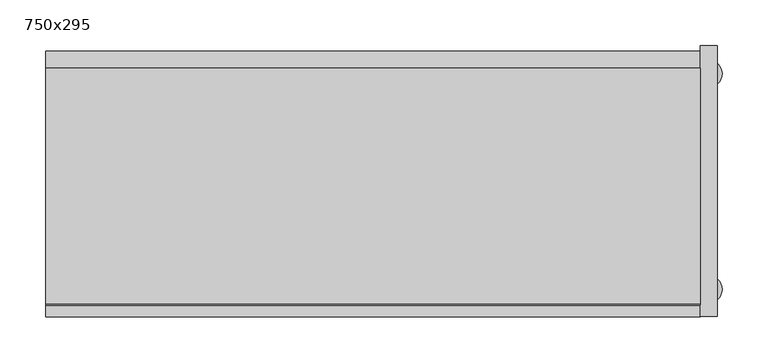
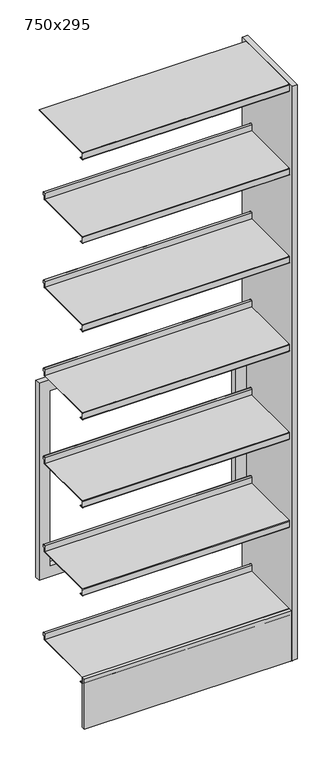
"""IFC4 building model written with IfcOpenShell, lengths in millimetres: furniture geometry, BK Library - Rondus EF - 2100 : 750x295."""

from ifc_helpers import new_model, si_unit, point, frame, frame_2d, origin, origin_with_axes, place, context, project, spatial, polyline, circle_curve, trimmed, segment, composite_curve, outline, extrude, source, transform, mapped, element, save


def furniture_750x295_7441573b(model_context):
    return source(origin(), model_context, "Body", "SweptSolid", [
        extrude(outline(polyline([(1106.1999512, -356.0), (391.1999512, -356.0), (391.1999512, 356.0), (1106.1999512, 356.0), (1106.1999512, -356.0)]), holes=[polyline([(1066.1999514, -317.5), (1066.1999514, 317.5), (431.1999514, 317.5), (431.1999514, -317.5), (1066.1999514, -317.5)])]), frame((0.0, 123.0, 0.0), z_axis=(0.0, 1.0, 0.0), x_axis=(0.0, 0.0, 1.0)), (0.0, 0.0, 1.0), 19.0),
        extrude(outline(polyline([(356.0, -135.2476624), (356.0, -147.5), (-356.0, -147.5), (-356.0, -135.2476624), (356.0, -135.2476624)])), frame((0.0, 0.0, 13.6999998), z_axis=(0.0, 0.0, 1.0), x_axis=(1.0, 0.0, 0.0)), (0.0, 0.0, 1.0), 181.4999514),
        extrude(outline(composite_curve([segment(polyline([(123.0, 2100.0), (123.0, 2098.0), (-133.75, 2098.0), (-133.75, 2076.5), (-121.75, 2076.5), (-121.75, 2075.0), (-133.75, 2075.0)]), True, "CONTINUOUS"), segment(trimmed(circle_curve(frame_2d((-133.75, 2076.5)), 1.5), [point((-133.75, 2075.0))], [point((-135.25, 2076.5))], False, "CARTESIAN"), True, "CONTINUOUS"), segment(polyline([(-135.25, 2076.5), (-135.25, 2098.5)]), True, "CONTINUOUS"), segment(trimmed(circle_curve(frame_2d((-133.75, 2098.5)), 1.5), [point((-135.25, 2098.5))], [point((-133.75, 2100.0))], False, "CARTESIAN"), True, "CONTINUOUS"), segment(polyline([(-133.75, 2100.0), (123.0, 2100.0)]), True, "CONTINUOUS")], self_intersect=False)), frame((-356.0, 0.0, 0.0), z_axis=(1.0, 0.0, 0.0), x_axis=(0.0, 1.0, 0.0)), (0.0, 0.0, 1.0), 712.0),
        extrude(outline(composite_curve([segment(polyline([(89.75, 1795.1999512), (89.75, 1816.7196336)]), True, "CONTINUOUS"), segment(trimmed(circle_curve(frame_2d((93.25, 1816.7196336)), 3.5), [point((89.75, 1816.7196336))], [point((96.75, 1816.7196336))], False, "CARTESIAN"), True, "CONTINUOUS"), segment(polyline([(96.75, 1816.7196336), (96.75, 1808.1999512), (95.25, 1808.1999512), (95.25, 1816.7020126)]), True, "CONTINUOUS"), segment(trimmed(circle_curve(frame_2d((93.25, 1816.7020126)), 2.0), [point((95.25, 1816.7020126))], [point((91.25, 1816.7020126))], True, "CARTESIAN"), True, "CONTINUOUS"), segment(polyline([(91.25, 1816.7020126), (91.25, 1795.1547733)]), True, "CONTINUOUS"), segment(trimmed(circle_curve(frame_2d((89.7951779, 1795.1547733)), 1.4548221), [point((91.25, 1795.1547733))], [point((89.7951779, 1793.6999512))], False, "CARTESIAN"), True, "CONTINUOUS"), segment(polyline([(89.7951779, 1793.6999512), (-133.75, 1793.6999512), (-133.75, 1772.1999512), (-121.75, 1772.1999512), (-121.75, 1770.6999512), (-133.75, 1770.6999512)]), True, "CONTINUOUS"), segment(trimmed(circle_curve(frame_2d((-133.75, 1772.1999512)), 1.5), [point((-133.75, 1770.6999512))], [point((-135.25, 1772.1999512))], False, "CARTESIAN"), True, "CONTINUOUS"), segment(polyline([(-135.25, 1772.1999512), (-135.25, 1793.6999512)]), True, "CONTINUOUS"), segment(trimmed(circle_curve(frame_2d((-133.75, 1793.6999512)), 1.5), [point((-135.25, 1793.6999512))], [point((-133.75, 1795.1999512))], False, "CARTESIAN"), True, "CONTINUOUS"), segment(polyline([(-133.75, 1795.1999512), (89.75, 1795.1999512)]), True, "CONTINUOUS")], self_intersect=False)), frame((-356.0, 0.0, 0.0), z_axis=(1.0, 0.0, 0.0), x_axis=(0.0, 1.0, 0.0)), (0.0, 0.0, 1.0), 712.0),
        extrude(outline(composite_curve([segment(polyline([(89.75, 1475.1999512), (89.75, 1496.7196336)]), True, "CONTINUOUS"), segment(trimmed(circle_curve(frame_2d((93.25, 1496.7196336)), 3.5), [point((89.75, 1496.7196336))], [point((96.75, 1496.7196336))], False, "CARTESIAN"), True, "CONTINUOUS"), segment(polyline([(96.75, 1496.7196336), (96.75, 1488.1999512), (95.25, 1488.1999512), (95.25, 1496.7020126)]), True, "CONTINUOUS"), segment(trimmed(circle_curve(frame_2d((93.25, 1496.7020126)), 2.0), [point((95.25, 1496.7020126))], [point((91.25, 1496.7020126))], True, "CARTESIAN"), True, "CONTINUOUS"), segment(polyline([(91.25, 1496.7020126), (91.25, 1475.1547733)]), True, "CONTINUOUS"), segment(trimmed(circle_curve(frame_2d((89.7951779, 1475.1547733)), 1.4548221), [point((91.25, 1475.1547733))], [point((89.7951779, 1473.6999512))], False, "CARTESIAN"), True, "CONTINUOUS"), segment(polyline([(89.7951779, 1473.6999512), (-133.75, 1473.6999512), (-133.75, 1452.1999512), (-121.75, 1452.1999512), (-121.75, 1450.6999512), (-133.75, 1450.6999512)]), True, "CONTINUOUS"), segment(trimmed(circle_curve(frame_2d((-133.75, 1452.1999512)), 1.5), [point((-133.75, 1450.6999512))], [point((-135.25, 1452.1999512))], False, "CARTESIAN"), True, "CONTINUOUS"), segment(polyline([(-135.25, 1452.1999512), (-135.25, 1473.6999512)]), True, "CONTINUOUS"), segment(trimmed(circle_curve(frame_2d((-133.75, 1473.6999512)), 1.5), [point((-135.25, 1473.6999512))], [point((-133.75, 1475.1999512))], False, "CARTESIAN"), True, "CONTINUOUS"), segment(polyline([(-133.75, 1475.1999512), (89.75, 1475.1999512)]), True, "CONTINUOUS")], self_intersect=False)), frame((-356.0, 0.0, 0.0), z_axis=(1.0, 0.0, 0.0), x_axis=(0.0, 1.0, 0.0)), (0.0, 0.0, 1.0), 712.0),
        extrude(outline(composite_curve([segment(polyline([(89.75, 1155.1999512), (89.75, 1176.7196336)]), True, "CONTINUOUS"), segment(trimmed(circle_curve(frame_2d((93.25, 1176.7196336)), 3.5), [point((89.75, 1176.7196336))], [point((96.75, 1176.7196336))], False, "CARTESIAN"), True, "CONTINUOUS"), segment(polyline([(96.75, 1176.7196336), (96.75, 1168.1999512), (95.25, 1168.1999512), (95.25, 1176.7020126)]), True, "CONTINUOUS"), segment(trimmed(circle_curve(frame_2d((93.25, 1176.7020126)), 2.0), [point((95.25, 1176.7020126))], [point((91.25, 1176.7020126))], True, "CARTESIAN"), True, "CONTINUOUS"), segment(polyline([(91.25, 1176.7020126), (91.25, 1155.1547733)]), True, "CONTINUOUS"), segment(trimmed(circle_curve(frame_2d((89.7951779, 1155.1547733)), 1.4548221), [point((91.25, 1155.1547733))], [point((89.7951779, 1153.6999512))], False, "CARTESIAN"), True, "CONTINUOUS"), segment(polyline([(89.7951779, 1153.6999512), (-133.75, 1153.6999512), (-133.75, 1132.1999512), (-121.75, 1132.1999512), (-121.75, 1130.6999512), (-133.75, 1130.6999512)]), True, "CONTINUOUS"), segment(trimmed(circle_curve(frame_2d((-133.75, 1132.1999512)), 1.5), [point((-133.75, 1130.6999512))], [point((-135.25, 1132.1999512))], False, "CARTESIAN"), True, "CONTINUOUS"), segment(polyline([(-135.25, 1132.1999512), (-135.25, 1153.6999512)]), True, "CONTINUOUS"), segment(trimmed(circle_curve(frame_2d((-133.75, 1153.6999512)), 1.5), [point((-135.25, 1153.6999512))], [point((-133.75, 1155.1999512))], False, "CARTESIAN"), True, "CONTINUOUS"), segment(polyline([(-133.75, 1155.1999512), (89.75, 1155.1999512)]), True, "CONTINUOUS")], self_intersect=False)), frame((-356.0, 0.0, 0.0), z_axis=(1.0, 0.0, 0.0), x_axis=(0.0, 1.0, 0.0)), (0.0, 0.0, 1.0), 712.0),
        extrude(outline(composite_curve([segment(polyline([(89.75, 835.1999512), (89.75, 856.7196336)]), True, "CONTINUOUS"), segment(trimmed(circle_curve(frame_2d((93.25, 856.7196336)), 3.5), [point((89.75, 856.7196336))], [point((96.75, 856.7196336))], False, "CARTESIAN"), True, "CONTINUOUS"), segment(polyline([(96.75, 856.7196336), (96.75, 848.1999512), (95.25, 848.1999512), (95.25, 856.7020126)]), True, "CONTINUOUS"), segment(trimmed(circle_curve(frame_2d((93.25, 856.7020126)), 2.0), [point((95.25, 856.7020126))], [point((91.25, 856.7020126))], True, "CARTESIAN"), True, "CONTINUOUS"), segment(polyline([(91.25, 856.7020126), (91.25, 835.1547733)]), True, "CONTINUOUS"), segment(trimmed(circle_curve(frame_2d((89.7951779, 835.1547733)), 1.4548221), [point((91.25, 835.1547733))], [point((89.7951779, 833.6999512))], False, "CARTESIAN"), True, "CONTINUOUS"), segment(polyline([(89.7951779, 833.6999512), (-133.75, 833.6999512), (-133.75, 812.1999512), (-121.75, 812.1999512), (-121.75, 810.6999512), (-133.75, 810.6999512)]), True, "CONTINUOUS"), segment(trimmed(circle_curve(frame_2d((-133.75, 812.1999512)), 1.5), [point((-133.75, 810.6999512))], [point((-135.25, 812.1999512))], False, "CARTESIAN"), True, "CONTINUOUS"), segment(polyline([(-135.25, 812.1999512), (-135.25, 833.6999512)]), True, "CONTINUOUS"), segment(trimmed(circle_curve(frame_2d((-133.75, 833.6999512)), 1.5), [point((-135.25, 833.6999512))], [point((-133.75, 835.1999512))], False, "CARTESIAN"), True, "CONTINUOUS"), segment(polyline([(-133.75, 835.1999512), (89.75, 835.1999512)]), True, "CONTINUOUS")], self_intersect=False)), frame((-356.0, 0.0, 0.0), z_axis=(1.0, 0.0, 0.0), x_axis=(0.0, 1.0, 0.0)), (0.0, 0.0, 1.0), 712.0),
        extrude(outline(composite_curve([segment(polyline([(89.75, 515.1999512), (89.75, 536.7196336)]), True, "CONTINUOUS"), segment(trimmed(circle_curve(frame_2d((93.25, 536.7196336)), 3.5), [point((89.75, 536.7196336))], [point((96.75, 536.7196336))], False, "CARTESIAN"), True, "CONTINUOUS"), segment(polyline([(96.75, 536.7196336), (96.75, 528.1999512), (95.25, 528.1999512), (95.25, 536.7020126)]), True, "CONTINUOUS"), segment(trimmed(circle_curve(frame_2d((93.25, 536.7020126)), 2.0), [point((95.25, 536.7020126))], [point((91.25, 536.7020126))], True, "CARTESIAN"), True, "CONTINUOUS"), segment(polyline([(91.25, 536.7020126), (91.25, 515.1547733)]), True, "CONTINUOUS"), segment(trimmed(circle_curve(frame_2d((89.7951779, 515.1547733)), 1.4548221), [point((91.25, 515.1547733))], [point((89.7951779, 513.6999512))], False, "CARTESIAN"), True, "CONTINUOUS"), segment(polyline([(89.7951779, 513.6999512), (-133.75, 513.6999512), (-133.75, 492.1999512), (-121.75, 492.1999512), (-121.75, 490.6999512), (-133.75, 490.6999512)]), True, "CONTINUOUS"), segment(trimmed(circle_curve(frame_2d((-133.75, 492.1999512)), 1.5), [point((-133.75, 490.6999512))], [point((-135.25, 492.1999512))], False, "CARTESIAN"), True, "CONTINUOUS"), segment(polyline([(-135.25, 492.1999512), (-135.25, 513.6999512)]), True, "CONTINUOUS"), segment(trimmed(circle_curve(frame_2d((-133.75, 513.6999512)), 1.5), [point((-135.25, 513.6999512))], [point((-133.75, 515.1999512))], False, "CARTESIAN"), True, "CONTINUOUS"), segment(polyline([(-133.75, 515.1999512), (89.75, 515.1999512)]), True, "CONTINUOUS")], self_intersect=False)), frame((-356.0, 0.0, 0.0), z_axis=(1.0, 0.0, 0.0), x_axis=(0.0, 1.0, 0.0)), (0.0, 0.0, 1.0), 712.0),
        extrude(outline(composite_curve([segment(polyline([(89.75, 195.1999512), (89.75, 216.7196336)]), True, "CONTINUOUS"), segment(trimmed(circle_curve(frame_2d((93.25, 216.7196336)), 3.5), [point((89.75, 216.7196336))], [point((96.75, 216.7196336))], False, "CARTESIAN"), True, "CONTINUOUS"), segment(polyline([(96.75, 216.7196336), (96.75, 208.1999512), (95.25, 208.1999512), (95.25, 216.7020126)]), True, "CONTINUOUS"), segment(trimmed(circle_curve(frame_2d((93.25, 216.7020126)), 2.0), [point((95.25, 216.7020126))], [point((91.25, 216.7020126))], True, "CARTESIAN"), True, "CONTINUOUS"), segment(polyline([(91.25, 216.7020126), (91.25, 195.1547733)]), True, "CONTINUOUS"), segment(trimmed(circle_curve(frame_2d((89.7951779, 195.1547733)), 1.4548221), [point((91.25, 195.1547733))], [point((89.7951779, 193.6999512))], False, "CARTESIAN"), True, "CONTINUOUS"), segment(polyline([(89.7951779, 193.6999512), (-133.75, 193.6999512), (-133.75, 172.1999512), (-121.75, 172.1999512), (-121.75, 170.6999512), (-133.75, 170.6999512)]), True, "CONTINUOUS"), segment(trimmed(circle_curve(frame_2d((-133.75, 172.1999512)), 1.5), [point((-133.75, 170.6999512))], [point((-135.25, 172.1999512))], False, "CARTESIAN"), True, "CONTINUOUS"), segment(polyline([(-135.25, 172.1999512), (-135.25, 193.6999512)]), True, "CONTINUOUS"), segment(trimmed(circle_curve(frame_2d((-133.75, 193.6999512)), 1.5), [point((-135.25, 193.6999512))], [point((-133.75, 195.1999512))], False, "CARTESIAN"), True, "CONTINUOUS"), segment(polyline([(-133.75, 195.1999512), (89.75, 195.1999512)]), True, "CONTINUOUS")], self_intersect=False)), frame((-356.0, 0.0, 0.0), z_axis=(1.0, 0.0, 0.0), x_axis=(0.0, 1.0, 0.0)), (0.0, 0.0, 1.0), 712.0),
        extrude(outline(polyline([(356.0, 147.5), (375.0, 147.5), (375.0, -147.5), (356.0, -147.5), (356.0, 147.5)])), frame((0.0, 0.0, 13.6999998), z_axis=(0.0, 0.0, 1.0), x_axis=(1.0, 0.0, 0.0)), (0.0, 0.0, 1.0), 2086.3000002),
        extrude(outline(composite_curve([segment(trimmed(circle_curve(frame_2d((365.5005427, 117.4952633)), 14.4994573), [point((380.0, 117.4952633))], [point((351.0010853, 117.4952633))], False, "CARTESIAN"), True, "CONTINUOUS"), segment(trimmed(circle_curve(frame_2d((365.5005427, 117.4952633)), 14.4994573), [point((351.0010853, 117.4952633))], [point((380.0, 117.4952633))], False, "CARTESIAN"), True, "CONTINUOUS")], self_intersect=False)), origin_with_axes(), (0.0, 0.0, 1.0), 13.6999998),
        extrude(outline(composite_curve([segment(trimmed(circle_curve(frame_2d((365.5005427, -117.4952633)), 14.4994573), [point((380.0, -117.4952633))], [point((351.0010853, -117.4952633))], False, "CARTESIAN"), True, "CONTINUOUS"), segment(trimmed(circle_curve(frame_2d((365.5005427, -117.4952633)), 14.4994573), [point((351.0010853, -117.4952633))], [point((380.0, -117.4952633))], False, "CARTESIAN"), True, "CONTINUOUS")], self_intersect=False)), origin_with_axes(), (0.0, 0.0, 1.0), 13.6999998),
    ])


if __name__ == "__main__":
    model = new_model("IFC4")
    model_context = context("Model", 3, world=origin())
    ifc_project = project(units=[si_unit("LENGTHUNIT", "METRE", prefix="MILLI")], contexts=[model_context])
    site = spatial("IfcSite", under=ifc_project)
    building = spatial("IfcBuilding", under=site)
    placement = place(None, origin())
    furniture_750x295_shape = furniture_750x295_7441573b(model_context)
    element("IfcFurniture", 1, ObjectType="BK Library - Rondus EF - 2100 : 750x295", at=placement, inside=building, context=model_context, shape_type="MappedRepresentation", body=[
        mapped(furniture_750x295_shape, transform((0.0, 0.0, 0.0), x_axis=(1.0, 0.0, 0.0), y_axis=(0.0, 1.0, 0.0), z_axis=(0.0, 0.0, 1.0))),
    ])
    save(model, "model.ifc")
